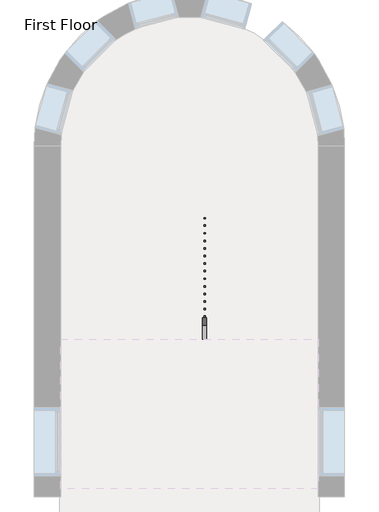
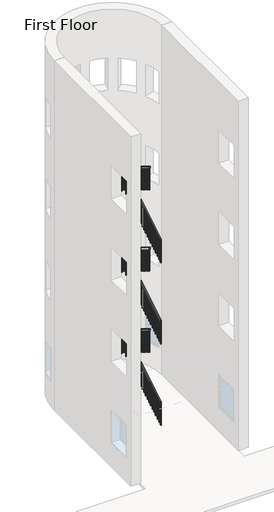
# One storey, part 4 of 5: 1 railing.
"""IFC4 building model written with IfcOpenShell, lengths in millimetres."""

import ifcopenshell
import ifcopenshell.guid

model = None  # the IFC model being written
_history = None  # IfcOwnerHistory: only IFC2X3 demands one
_inside = {}  # id of a spatial element -> (the spatial element, [elements in it])
_under = {}  # id of a project, library or spatial element -> (it, [spatial elements below it])
_declared = {}  # id of a project -> (the project, [libraries it declares])
_typed = {}  # id of a type object -> (the type object, [elements of that type])
_made_of = {}  # id of a material, layer set ... -> (it, [elements and type objects made of it])


def new_model(schema):
    """Start an empty IFC model of exactly this schema.

    Asked for "IFC4X3", IfcOpenShell would pick the latest addendum, in which some entities
    have other attributes; the version numbers below select the first issue.
    IFC2X3 requires an IfcOwnerHistory on every rooted entity: one is made here for all.
    """
    global model, _history
    if schema == "IFC4X3":
        model = ifcopenshell.file(schema_version=(4, 3, 0, 0))
    else:
        model = ifcopenshell.file(schema=schema)
    _inside.clear()
    _under.clear()
    _declared.clear()
    _typed.clear()
    _made_of.clear()
    _history = None
    if model.schema == "IFC2X3":
        org = make("IfcOrganization", Name="unknown")
        user = make(
            "IfcPersonAndOrganization",
            ThePerson=make("IfcPerson", FamilyName="unknown"),
            TheOrganization=org,
        )
        app = make(
            "IfcApplication",
            ApplicationDeveloper=org,
            Version="unknown",
            ApplicationFullName="unknown",
            ApplicationIdentifier="unknown",
        )
        _history = make(
            "IfcOwnerHistory",
            OwningUser=user,
            OwningApplication=app,
            ChangeAction="ADDED",
            CreationDate=0,
        )
    return model


def make(cls, **values):
    """One entity of the class cls with the attributes given. An attribute that is None is left unset."""
    return model.create_entity(
        cls, **{name: value for name, value in values.items() if value is not None}
    )


def rooted(cls, **values):
    """An entity with a GlobalId (a new one), such as an element, a storey or a relation."""
    return make(cls, GlobalId=ifcopenshell.guid.new(), OwnerHistory=_history, **values)


def si_unit(unit_type, name, prefix=None):
    """IfcSIUnit, for example si_unit("LENGTHUNIT", "METRE", prefix="MILLI")."""
    return make("IfcSIUnit", UnitType=unit_type, Prefix=prefix, Name=name)


def assignment(units):
    """IfcUnitAssignment: the units of a project."""
    return None if units is None else make("IfcUnitAssignment", Units=units)


def point(xyz):
    """IfcCartesianPoint."""
    return None if xyz is None else make("IfcCartesianPoint", Coordinates=xyz)


def direction(xyz):
    """IfcDirection."""
    return None if xyz is None else make("IfcDirection", DirectionRatios=xyz)


def frame(location, z_axis=None, x_axis=None):
    """IfcAxis2Placement3D, a coordinate frame: its origin and axes. An axis left out is left unset."""
    return make(
        "IfcAxis2Placement3D",
        Location=point(location),
        Axis=direction(z_axis),
        RefDirection=direction(x_axis),
    )


def origin():
    """The frame at (0, 0, 0) with its axes left unset."""
    return frame((0.0, 0.0, 0.0))


def place(relative_to, where):
    """IfcLocalPlacement: puts the frame where relative to a parent placement (None: the world)."""
    return make(
        "IfcLocalPlacement", PlacementRelTo=relative_to, RelativePlacement=where
    )


def context(
    kind, dimensions, precision=None, world=None, true_north=None, identifier=None
):
    """IfcGeometricRepresentationContext, for example the 3D "Model" context."""
    return make(
        "IfcGeometricRepresentationContext",
        ContextIdentifier=identifier,
        ContextType=kind,
        CoordinateSpaceDimension=dimensions,
        Precision=precision,
        WorldCoordinateSystem=world,
        TrueNorth=true_north,
    )


def project(units=None, contexts=None):
    """IfcProject with its units and contexts."""
    return rooted(
        "IfcProject",
        Name="project",
        RepresentationContexts=contexts,
        UnitsInContext=assignment(units),
    )


def spatial(cls, under=None, at=None, **own):
    """A site, building, storey or space (cls), placed at a placement, below another one or the project."""
    s = rooted(cls, ObjectPlacement=at, **own)
    if under is not None:
        _under.setdefault(under.id(), (under, []))[1].append(s)
    return s


def polyline(points):
    """IfcPolyline through the points."""
    return make("IfcPolyline", Points=[point(p) for p in points])


def outline(outer, holes=None, kind="AREA"):
    """IfcArbitraryClosedProfileDef: a profile drawn as a closed curve; with holes, ...WithVoids."""
    if holes is None:
        return make("IfcArbitraryClosedProfileDef", ProfileType=kind, OuterCurve=outer)
    return make(
        "IfcArbitraryProfileDefWithVoids",
        ProfileType=kind,
        OuterCurve=outer,
        InnerCurves=holes,
    )


def extrude(swept, where, along, depth):
    """IfcExtrudedAreaSolid: the profile swept, set in the frame where, extruded along a direction by depth."""
    return make(
        "IfcExtrudedAreaSolid",
        SweptArea=swept,
        Position=where,
        ExtrudedDirection=direction(along),
        Depth=depth,
    )


def shape(context_of_items, identifier, shape_type, items):
    """IfcShapeRepresentation: the items that make up one representation, for example the "Body"."""
    return make(
        "IfcShapeRepresentation",
        ContextOfItems=context_of_items,
        RepresentationIdentifier=identifier,
        RepresentationType=shape_type,
        Items=items,
    )


def made_of(thing, what):
    """Note that an element or type object is made of a material, layer set ...; save() writes the relation."""
    if what is not None:
        _made_of.setdefault(what.id(), (what, []))[1].append(thing)
    return thing


def element(
    cls,
    number,
    at=None,
    inside=None,
    cuts=None,
    type_object=None,
    material=None,
    context=None,
    identifier="Body",
    shape_type=None,
    held_by="IfcProductDefinitionShape",
    body=None,
    shapes=None,
    **own,
):
    """One element of the class cls, such as IfcWall. Its Tag is "e" and its number.

    at: its placement. inside: the storey or other place that contains it. cuts: it is an
    opening in that element (IfcRelVoidsElement). A single representation is given by context,
    identifier, shape_type and body (its items); several are given by shapes. held_by: the class
    of the entity that holds the representations. save() writes the other relations.
    """
    e = rooted(cls, Tag="e%d" % number, ObjectPlacement=at, **own)
    if body is not None:
        shapes = [shape(context, identifier, shape_type, body)]
    if shapes is not None:
        e.Representation = make(held_by, Representations=shapes)
    if inside is not None:
        _inside.setdefault(inside.id(), (inside, []))[1].append(e)
    if cuts is not None:
        rooted(
            "IfcRelVoidsElement", RelatingBuildingElement=cuts, RelatedOpeningElement=e
        )
    if type_object is not None:
        _typed.setdefault(type_object.id(), (type_object, []))[1].append(e)
    return made_of(e, material)


def aggregate(whole, parts):
    """IfcRelAggregates: a whole, such as a stair, and the parts it consists of."""
    return rooted("IfcRelAggregates", RelatingObject=whole, RelatedObjects=parts)


def save(model, path):
    """Write the relations noted so far, then the file.

    IfcRelAggregates (storeys below a building ...), IfcRelContainedInSpatialStructure (elements
    in a storey), IfcRelDefinesByType, IfcRelAssociatesMaterial and IfcRelDeclares: one each for
    every whole, place, type object, material and project.
    """
    for whole, parts in _under.values():
        aggregate(whole, parts)
    for where, things in _inside.values():
        rooted(
            "IfcRelContainedInSpatialStructure",
            RelatedElements=things,
            RelatingStructure=where,
        )
    for kind, things in _typed.values():
        rooted("IfcRelDefinesByType", RelatedObjects=things, RelatingType=kind)
    for what, things in _made_of.values():
        rooted("IfcRelAssociatesMaterial", RelatedObjects=things, RelatingMaterial=what)
    for by, libraries in _declared.values():
        rooted("IfcRelDeclares", RelatingContext=by, RelatedDefinitions=libraries)
    model.write(path)


model = new_model("IFC4")

# Units and contexts
model_context = context("Model", 3, world=origin())
ifc_project = project(units=[si_unit("LENGTHUNIT", "METRE", prefix="MILLI")], contexts=[model_context])

# Site, building, storey
site = spatial("IfcSite", under=ifc_project)
building = spatial("IfcBuilding", under=site)
storey = spatial("IfcBuildingStorey", under=building, Name="First Floor", Elevation=0.0)

# Railing
placement = place(None, origin())
element("IfcRailing", 1, ObjectType="Handrail - Rectangular", at=placement, inside=storey, context=model_context, shape_type="SweptSolid", body=[
    extrude(outline(polyline([(7001.9758812, 7120.3318731), (7001.9758812, 7179.7333333), (9186.3758812, 8503.6121212), (9186.3758812, 8444.210661), (7001.9758812, 7120.3318731)])), frame((-6067.8149687, 0.0, 0.0), z_axis=(1.0, 0.0, 0.0), x_axis=(0.0, 1.0, 0.0)), (0.0, 0.0, 1.0), 50.8),
    extrude(outline(polyline([(-6017.0149687, 9237.1758812), (-6017.0149687, 9186.3758812), (-6423.4149687, 9186.3758812), (-6423.4149687, 9237.1758812), (-6017.0149687, 9237.1758812)])), frame((0.0, 0.0, 8483.6), z_axis=(0.0, 0.0, 1.0), x_axis=(1.0, 0.0, 0.0)), (0.0, 0.0, 1.0), 50.8),
    extrude(outline(polyline([(9237.1758812, 8703.7333333), (9237.1758812, 8644.3318731), (7001.9758812, 9998.9985397), (7001.9758812, 10058.4), (9237.1758812, 8703.7333333)])), frame((-6474.2149687, 0.0, 0.0), z_axis=(1.0, 0.0, 0.0), x_axis=(0.0, 1.0, 0.0)), (0.0, 0.0, 1.0), 50.8),
    extrude(outline(polyline([(7087.7008812, 9947.0439943), (7087.7008812, 9134.8266332), (7068.6508812, 9146.3720877), (7068.6508812, 9958.5894488), (7087.7008812, 9947.0439943)])), frame((-6458.3399687, 0.0, 0.0), z_axis=(1.0, 0.0, 0.0), x_axis=(0.0, 1.0, 0.0)), (0.0, 0.0, 1.0), 19.05),
    extrude(outline(polyline([(7189.3008812, 9885.4682367), (7189.3008812, 9073.2508756), (7170.2508812, 9084.7963301), (7170.2508812, 9897.0136913), (7189.3008812, 9885.4682367)])), frame((-6458.3399687, 0.0, 0.0), z_axis=(1.0, 0.0, 0.0), x_axis=(0.0, 1.0, 0.0)), (0.0, 0.0, 1.0), 19.05),
    extrude(outline(polyline([(7290.9008812, 9823.8924791), (7290.9008812, 9011.675118), (7271.8508812, 9023.2205726), (7271.8508812, 9835.4379337), (7290.9008812, 9823.8924791)])), frame((-6458.3399687, 0.0, 0.0), z_axis=(1.0, 0.0, 0.0), x_axis=(0.0, 1.0, 0.0)), (0.0, 0.0, 1.0), 19.05),
    extrude(outline(polyline([(7392.5008812, 9762.3167216), (7392.5008812, 8950.0993604), (7373.4508812, 8961.644815), (7373.4508812, 9773.8621761), (7392.5008812, 9762.3167216)])), frame((-6458.3399687, 0.0, 0.0), z_axis=(1.0, 0.0, 0.0), x_axis=(0.0, 1.0, 0.0)), (0.0, 0.0, 1.0), 19.05),
    extrude(outline(polyline([(7494.1008812, 9700.740964), (7494.1008812, 8888.5236029), (7475.0508812, 8900.0690574), (7475.0508812, 9712.2864185), (7494.1008812, 9700.740964)])), frame((-6458.3399687, 0.0, 0.0), z_axis=(1.0, 0.0, 0.0), x_axis=(0.0, 1.0, 0.0)), (0.0, 0.0, 1.0), 19.05),
    extrude(outline(polyline([(7595.7008812, 9639.1652064), (7595.7008812, 8826.9478453), (7576.6508812, 8838.4932998), (7576.6508812, 9650.710661), (7595.7008812, 9639.1652064)])), frame((-6458.3399687, 0.0, 0.0), z_axis=(1.0, 0.0, 0.0), x_axis=(0.0, 1.0, 0.0)), (0.0, 0.0, 1.0), 19.05),
    extrude(outline(polyline([(7697.3008812, 9577.5894488), (7697.3008812, 8765.3720877), (7678.2508812, 8776.9175423), (7678.2508812, 9589.1349034), (7697.3008812, 9577.5894488)])), frame((-6458.3399687, 0.0, 0.0), z_axis=(1.0, 0.0, 0.0), x_axis=(0.0, 1.0, 0.0)), (0.0, 0.0, 1.0), 19.05),
    extrude(outline(polyline([(7798.9008812, 9516.0136913), (7798.9008812, 8703.7963301), (7779.8508812, 8715.3417847), (7779.8508812, 9527.5591458), (7798.9008812, 9516.0136913)])), frame((-6458.3399687, 0.0, 0.0), z_axis=(1.0, 0.0, 0.0), x_axis=(0.0, 1.0, 0.0)), (0.0, 0.0, 1.0), 19.05),
    extrude(outline(polyline([(7900.5008812, 9454.4379337), (7900.5008812, 8642.2205726), (7881.4508812, 8653.7660271), (7881.4508812, 9465.9833882), (7900.5008812, 9454.4379337)])), frame((-6458.3399687, 0.0, 0.0), z_axis=(1.0, 0.0, 0.0), x_axis=(0.0, 1.0, 0.0)), (0.0, 0.0, 1.0), 19.05),
    extrude(outline(polyline([(8002.1008812, 9392.8621761), (8002.1008812, 8580.644815), (7983.0508812, 8592.1902695), (7983.0508812, 9404.4076307), (8002.1008812, 9392.8621761)])), frame((-6458.3399687, 0.0, 0.0), z_axis=(1.0, 0.0, 0.0), x_axis=(0.0, 1.0, 0.0)), (0.0, 0.0, 1.0), 19.05),
    extrude(outline(polyline([(8103.7008812, 9331.2864185), (8103.7008812, 8519.0690574), (8084.6508812, 8530.614512), (8084.6508812, 9342.8318731), (8103.7008812, 9331.2864185)])), frame((-6458.3399687, 0.0, 0.0), z_axis=(1.0, 0.0, 0.0), x_axis=(0.0, 1.0, 0.0)), (0.0, 0.0, 1.0), 19.05),
    extrude(outline(polyline([(8205.3008812, 9269.710661), (8205.3008812, 8457.4932998), (8186.2508812, 8469.0387544), (8186.2508812, 9281.2561155), (8205.3008812, 9269.710661)])), frame((-6458.3399687, 0.0, 0.0), z_axis=(1.0, 0.0, 0.0), x_axis=(0.0, 1.0, 0.0)), (0.0, 0.0, 1.0), 19.05),
    extrude(outline(polyline([(8306.9008812, 9208.1349034), (8306.9008812, 8395.9175423), (8287.8508812, 8407.4629968), (8287.8508812, 9219.6803579), (8306.9008812, 9208.1349034)])), frame((-6458.3399687, 0.0, 0.0), z_axis=(1.0, 0.0, 0.0), x_axis=(0.0, 1.0, 0.0)), (0.0, 0.0, 1.0), 19.05),
    extrude(outline(polyline([(8408.5008812, 9146.5591458), (8408.5008812, 8334.3417847), (8389.4508812, 8345.8872392), (8389.4508812, 9158.1046004), (8408.5008812, 9146.5591458)])), frame((-6458.3399687, 0.0, 0.0), z_axis=(1.0, 0.0, 0.0), x_axis=(0.0, 1.0, 0.0)), (0.0, 0.0, 1.0), 19.05),
    extrude(outline(polyline([(8510.1008812, 9084.9833882), (8510.1008812, 8272.7660271), (8491.0508812, 8284.3114817), (8491.0508812, 9096.5288428), (8510.1008812, 9084.9833882)])), frame((-6458.3399687, 0.0, 0.0), z_axis=(1.0, 0.0, 0.0), x_axis=(0.0, 1.0, 0.0)), (0.0, 0.0, 1.0), 19.05),
    extrude(outline(polyline([(8611.7008812, 9023.4076307), (8611.7008812, 8211.1902695), (8592.6508812, 8222.7357241), (8592.6508812, 9034.9530852), (8611.7008812, 9023.4076307)])), frame((-6458.3399687, 0.0, 0.0), z_axis=(1.0, 0.0, 0.0), x_axis=(0.0, 1.0, 0.0)), (0.0, 0.0, 1.0), 19.05),
    extrude(outline(polyline([(8713.3008812, 8961.8318731), (8713.3008812, 8149.614512), (8694.2508812, 8161.1599665), (8694.2508812, 8973.3773276), (8713.3008812, 8961.8318731)])), frame((-6458.3399687, 0.0, 0.0), z_axis=(1.0, 0.0, 0.0), x_axis=(0.0, 1.0, 0.0)), (0.0, 0.0, 1.0), 19.05),
    extrude(outline(polyline([(8814.9008812, 8900.2561155), (8814.9008812, 8088.0387544), (8795.8508812, 8099.5842089), (8795.8508812, 8911.80157), (8814.9008812, 8900.2561155)])), frame((-6458.3399687, 0.0, 0.0), z_axis=(1.0, 0.0, 0.0), x_axis=(0.0, 1.0, 0.0)), (0.0, 0.0, 1.0), 19.05),
    extrude(outline(polyline([(8916.5008812, 8838.6803579), (8916.5008812, 8026.4629968), (8897.4508812, 8038.0084514), (8897.4508812, 8850.2258125), (8916.5008812, 8838.6803579)])), frame((-6458.3399687, 0.0, 0.0), z_axis=(1.0, 0.0, 0.0), x_axis=(0.0, 1.0, 0.0)), (0.0, 0.0, 1.0), 19.05),
    extrude(outline(polyline([(9018.1008812, 8777.1046004), (9018.1008812, 7964.8872392), (8999.0508812, 7976.4326938), (8999.0508812, 8788.6500549), (9018.1008812, 8777.1046004)])), frame((-6458.3399687, 0.0, 0.0), z_axis=(1.0, 0.0, 0.0), x_axis=(0.0, 1.0, 0.0)), (0.0, 0.0, 1.0), 19.05),
    extrude(outline(polyline([(9119.7008812, 8715.5288428), (9119.7008812, 7903.3114817), (9100.6508812, 7914.8569362), (9100.6508812, 8727.0742973), (9119.7008812, 8715.5288428)])), frame((-6458.3399687, 0.0, 0.0), z_axis=(1.0, 0.0, 0.0), x_axis=(0.0, 1.0, 0.0)), (0.0, 0.0, 1.0), 19.05),
    extrude(outline(polyline([(-6337.6899687, 9202.2508812), (-6356.7399687, 9202.2508812), (-6356.7399687, 9221.3008812), (-6337.6899687, 9221.3008812), (-6337.6899687, 9202.2508812)])), frame((0.0, 0.0, 7696.2), z_axis=(0.0, 0.0, 1.0), x_axis=(1.0, 0.0, 0.0)), (0.0, 0.0, 1.0), 787.4),
    extrude(outline(polyline([(-6236.0899687, 9202.2508812), (-6255.1399687, 9202.2508812), (-6255.1399687, 9221.3008812), (-6236.0899687, 9221.3008812), (-6236.0899687, 9202.2508812)])), frame((0.0, 0.0, 7696.2), z_axis=(0.0, 0.0, 1.0), x_axis=(1.0, 0.0, 0.0)), (0.0, 0.0, 1.0), 787.4),
    extrude(outline(polyline([(-6134.4899687, 9202.2508812), (-6153.5399687, 9202.2508812), (-6153.5399687, 9221.3008812), (-6134.4899687, 9221.3008812), (-6134.4899687, 9202.2508812)])), frame((0.0, 0.0, 7696.2), z_axis=(0.0, 0.0, 1.0), x_axis=(1.0, 0.0, 0.0)), (0.0, 0.0, 1.0), 787.4),
    extrude(outline(polyline([(9145.1008812, 8419.1955094), (9145.1008812, 7606.9781483), (9126.0508812, 7595.4326938), (9126.0508812, 8407.6500549), (9145.1008812, 8419.1955094)])), frame((-6051.9399687, 0.0, 0.0), z_axis=(1.0, 0.0, 0.0), x_axis=(0.0, 1.0, 0.0)), (0.0, 0.0, 1.0), 19.05),
    extrude(outline(polyline([(9043.5008812, 8357.6197519), (9043.5008812, 7545.4023907), (9024.4508812, 7533.8569362), (9024.4508812, 8346.0742973), (9043.5008812, 8357.6197519)])), frame((-6051.9399687, 0.0, 0.0), z_axis=(1.0, 0.0, 0.0), x_axis=(0.0, 1.0, 0.0)), (0.0, 0.0, 1.0), 19.05),
    extrude(outline(polyline([(8941.9008812, 8296.0439943), (8941.9008812, 7483.8266332), (8922.8508812, 7472.2811786), (8922.8508812, 8284.4985397), (8941.9008812, 8296.0439943)])), frame((-6051.9399687, 0.0, 0.0), z_axis=(1.0, 0.0, 0.0), x_axis=(0.0, 1.0, 0.0)), (0.0, 0.0, 1.0), 19.05),
    extrude(outline(polyline([(8840.3008812, 8234.4682367), (8840.3008812, 7422.2508756), (8821.2508812, 7410.7054211), (8821.2508812, 8222.9227822), (8840.3008812, 8234.4682367)])), frame((-6051.9399687, 0.0, 0.0), z_axis=(1.0, 0.0, 0.0), x_axis=(0.0, 1.0, 0.0)), (0.0, 0.0, 1.0), 19.05),
    extrude(outline(polyline([(8738.7008812, 8172.8924791), (8738.7008812, 7360.675118), (8719.6508812, 7349.1296635), (8719.6508812, 8161.3470246), (8738.7008812, 8172.8924791)])), frame((-6051.9399687, 0.0, 0.0), z_axis=(1.0, 0.0, 0.0), x_axis=(0.0, 1.0, 0.0)), (0.0, 0.0, 1.0), 19.05),
    extrude(outline(polyline([(8637.1008812, 8111.3167216), (8637.1008812, 7299.0993604), (8618.0508812, 7287.5539059), (8618.0508812, 8099.771267), (8637.1008812, 8111.3167216)])), frame((-6051.9399687, 0.0, 0.0), z_axis=(1.0, 0.0, 0.0), x_axis=(0.0, 1.0, 0.0)), (0.0, 0.0, 1.0), 19.05),
    extrude(outline(polyline([(8535.5008812, 8049.740964), (8535.5008812, 7237.5236029), (8516.4508812, 7225.9781483), (8516.4508812, 8038.1955094), (8535.5008812, 8049.740964)])), frame((-6051.9399687, 0.0, 0.0), z_axis=(1.0, 0.0, 0.0), x_axis=(0.0, 1.0, 0.0)), (0.0, 0.0, 1.0), 19.05),
    extrude(outline(polyline([(8433.9008812, 7988.1652064), (8433.9008812, 7175.9478453), (8414.8508812, 7164.4023907), (8414.8508812, 7976.6197519), (8433.9008812, 7988.1652064)])), frame((-6051.9399687, 0.0, 0.0), z_axis=(1.0, 0.0, 0.0), x_axis=(0.0, 1.0, 0.0)), (0.0, 0.0, 1.0), 19.05),
    extrude(outline(polyline([(8332.3008812, 7926.5894488), (8332.3008812, 7114.3720877), (8313.2508812, 7102.8266332), (8313.2508812, 7915.0439943), (8332.3008812, 7926.5894488)])), frame((-6051.9399687, 0.0, 0.0), z_axis=(1.0, 0.0, 0.0), x_axis=(0.0, 1.0, 0.0)), (0.0, 0.0, 1.0), 19.05),
    extrude(outline(polyline([(8230.7008812, 7865.0136913), (8230.7008812, 7052.7963301), (8211.6508812, 7041.2508756), (8211.6508812, 7853.4682367), (8230.7008812, 7865.0136913)])), frame((-6051.9399687, 0.0, 0.0), z_axis=(1.0, 0.0, 0.0), x_axis=(0.0, 1.0, 0.0)), (0.0, 0.0, 1.0), 19.05),
    extrude(outline(polyline([(8129.1008812, 7803.4379337), (8129.1008812, 6991.2205726), (8110.0508812, 6979.675118), (8110.0508812, 7791.8924791), (8129.1008812, 7803.4379337)])), frame((-6051.9399687, 0.0, 0.0), z_axis=(1.0, 0.0, 0.0), x_axis=(0.0, 1.0, 0.0)), (0.0, 0.0, 1.0), 19.05),
    extrude(outline(polyline([(8027.5008812, 7741.8621761), (8027.5008812, 6929.644815), (8008.4508812, 6918.0993604), (8008.4508812, 7730.3167216), (8027.5008812, 7741.8621761)])), frame((-6051.9399687, 0.0, 0.0), z_axis=(1.0, 0.0, 0.0), x_axis=(0.0, 1.0, 0.0)), (0.0, 0.0, 1.0), 19.05),
    extrude(outline(polyline([(7925.9008812, 7680.2864185), (7925.9008812, 6868.0690574), (7906.8508812, 6856.5236029), (7906.8508812, 7668.740964), (7925.9008812, 7680.2864185)])), frame((-6051.9399687, 0.0, 0.0), z_axis=(1.0, 0.0, 0.0), x_axis=(0.0, 1.0, 0.0)), (0.0, 0.0, 1.0), 19.05),
    extrude(outline(polyline([(7824.3008812, 7618.710661), (7824.3008812, 6806.4932998), (7805.2508812, 6794.9478453), (7805.2508812, 7607.1652064), (7824.3008812, 7618.710661)])), frame((-6051.9399687, 0.0, 0.0), z_axis=(1.0, 0.0, 0.0), x_axis=(0.0, 1.0, 0.0)), (0.0, 0.0, 1.0), 19.05),
    extrude(outline(polyline([(7722.7008812, 7557.1349034), (7722.7008812, 6744.9175423), (7703.6508812, 6733.3720877), (7703.6508812, 7545.5894488), (7722.7008812, 7557.1349034)])), frame((-6051.9399687, 0.0, 0.0), z_axis=(1.0, 0.0, 0.0), x_axis=(0.0, 1.0, 0.0)), (0.0, 0.0, 1.0), 19.05),
    extrude(outline(polyline([(7621.1008812, 7495.5591458), (7621.1008812, 6683.3417847), (7602.0508812, 6671.7963301), (7602.0508812, 7484.0136913), (7621.1008812, 7495.5591458)])), frame((-6051.9399687, 0.0, 0.0), z_axis=(1.0, 0.0, 0.0), x_axis=(0.0, 1.0, 0.0)), (0.0, 0.0, 1.0), 19.05),
    extrude(outline(polyline([(7519.5008812, 7433.9833882), (7519.5008812, 6621.7660271), (7500.4508812, 6610.2205726), (7500.4508812, 7422.4379337), (7519.5008812, 7433.9833882)])), frame((-6051.9399687, 0.0, 0.0), z_axis=(1.0, 0.0, 0.0), x_axis=(0.0, 1.0, 0.0)), (0.0, 0.0, 1.0), 19.05),
    extrude(outline(polyline([(7417.9008812, 7372.4076307), (7417.9008812, 6560.1902695), (7398.8508812, 6548.644815), (7398.8508812, 7360.8621761), (7417.9008812, 7372.4076307)])), frame((-6051.9399687, 0.0, 0.0), z_axis=(1.0, 0.0, 0.0), x_axis=(0.0, 1.0, 0.0)), (0.0, 0.0, 1.0), 19.05),
    extrude(outline(polyline([(7316.3008812, 7310.8318731), (7316.3008812, 6498.614512), (7297.2508812, 6487.0690574), (7297.2508812, 7299.2864185), (7316.3008812, 7310.8318731)])), frame((-6051.9399687, 0.0, 0.0), z_axis=(1.0, 0.0, 0.0), x_axis=(0.0, 1.0, 0.0)), (0.0, 0.0, 1.0), 19.05),
    extrude(outline(polyline([(7214.7008812, 7249.2561155), (7214.7008812, 6437.0387544), (7195.6508812, 6425.4932998), (7195.6508812, 7237.710661), (7214.7008812, 7249.2561155)])), frame((-6051.9399687, 0.0, 0.0), z_axis=(1.0, 0.0, 0.0), x_axis=(0.0, 1.0, 0.0)), (0.0, 0.0, 1.0), 19.05),
    extrude(outline(polyline([(7113.1008812, 7187.6803579), (7113.1008812, 6375.4629968), (7094.0508812, 6363.9175423), (7094.0508812, 7176.1349034), (7113.1008812, 7187.6803579)])), frame((-6051.9399687, 0.0, 0.0), z_axis=(1.0, 0.0, 0.0), x_axis=(0.0, 1.0, 0.0)), (0.0, 0.0, 1.0), 19.05),
    extrude(outline(polyline([(9221.3008812, 8653.9530852), (9221.3008812, 7841.7357241), (9202.2508812, 7853.2811786), (9202.2508812, 8665.4985397), (9221.3008812, 8653.9530852)])), frame((-6458.3399687, 0.0, 0.0), z_axis=(1.0, 0.0, 0.0), x_axis=(0.0, 1.0, 0.0)), (0.0, 0.0, 1.0), 19.05),
    extrude(outline(polyline([(-6032.8899687, 9202.2508812), (-6051.9399687, 9202.2508812), (-6051.9399687, 9221.3008812), (-6032.8899687, 9221.3008812), (-6032.8899687, 9202.2508812)])), frame((0.0, 0.0, 7696.2), z_axis=(0.0, 0.0, 1.0), x_axis=(1.0, 0.0, 0.0)), (0.0, 0.0, 1.0), 787.4),
    extrude(outline(polyline([(7021.0258812, 9987.4530852), (7021.0258812, 9175.2357241), (7001.9758812, 9186.7811786), (7001.9758812, 9998.9985397), (7021.0258812, 9987.4530852)])), frame((-6458.3399687, 0.0, 0.0), z_axis=(1.0, 0.0, 0.0), x_axis=(0.0, 1.0, 0.0)), (0.0, 0.0, 1.0), 19.05),
    extrude(outline(polyline([(7021.0258812, 7131.8773276), (7021.0258812, 6319.6599665), (7001.9758812, 6308.114512), (7001.9758812, 7120.3318731), (7021.0258812, 7131.8773276)])), frame((-6051.9399687, 0.0, 0.0), z_axis=(1.0, 0.0, 0.0), x_axis=(0.0, 1.0, 0.0)), (0.0, 0.0, 1.0), 19.05),
    extrude(outline(polyline([(7001.9758812, 4072.3318731), (7001.9758812, 4131.7333333), (9186.3758812, 5455.6121212), (9186.3758812, 5396.210661), (7001.9758812, 4072.3318731)])), frame((-6067.8149687, 0.0, 0.0), z_axis=(1.0, 0.0, 0.0), x_axis=(0.0, 1.0, 0.0)), (0.0, 0.0, 1.0), 50.8),
    extrude(outline(polyline([(-6017.0149687, 9237.1758812), (-6017.0149687, 9186.3758812), (-6423.4149687, 9186.3758812), (-6423.4149687, 9237.1758812), (-6017.0149687, 9237.1758812)])), frame((0.0, 0.0, 5435.6), z_axis=(0.0, 0.0, 1.0), x_axis=(1.0, 0.0, 0.0)), (0.0, 0.0, 1.0), 50.8),
    extrude(outline(polyline([(9237.1758812, 5655.7333333), (9237.1758812, 5596.3318731), (7001.9758812, 6950.9985397), (7001.9758812, 7010.4), (9237.1758812, 5655.7333333)])), frame((-6474.2149687, 0.0, 0.0), z_axis=(1.0, 0.0, 0.0), x_axis=(0.0, 1.0, 0.0)), (0.0, 0.0, 1.0), 50.8),
    extrude(outline(polyline([(7087.7008812, 6899.0439943), (7087.7008812, 6086.8266332), (7068.6508812, 6098.3720877), (7068.6508812, 6910.5894488), (7087.7008812, 6899.0439943)])), frame((-6458.3399687, 0.0, 0.0), z_axis=(1.0, 0.0, 0.0), x_axis=(0.0, 1.0, 0.0)), (0.0, 0.0, 1.0), 19.05),
    extrude(outline(polyline([(7189.3008812, 6837.4682367), (7189.3008812, 6025.2508756), (7170.2508812, 6036.7963301), (7170.2508812, 6849.0136913), (7189.3008812, 6837.4682367)])), frame((-6458.3399687, 0.0, 0.0), z_axis=(1.0, 0.0, 0.0), x_axis=(0.0, 1.0, 0.0)), (0.0, 0.0, 1.0), 19.05),
    extrude(outline(polyline([(7290.9008812, 6775.8924791), (7290.9008812, 5963.675118), (7271.8508812, 5975.2205726), (7271.8508812, 6787.4379337), (7290.9008812, 6775.8924791)])), frame((-6458.3399687, 0.0, 0.0), z_axis=(1.0, 0.0, 0.0), x_axis=(0.0, 1.0, 0.0)), (0.0, 0.0, 1.0), 19.05),
    extrude(outline(polyline([(7392.5008812, 6714.3167216), (7392.5008812, 5902.0993604), (7373.4508812, 5913.644815), (7373.4508812, 6725.8621761), (7392.5008812, 6714.3167216)])), frame((-6458.3399687, 0.0, 0.0), z_axis=(1.0, 0.0, 0.0), x_axis=(0.0, 1.0, 0.0)), (0.0, 0.0, 1.0), 19.05),
    extrude(outline(polyline([(7494.1008812, 6652.740964), (7494.1008812, 5840.5236029), (7475.0508812, 5852.0690574), (7475.0508812, 6664.2864185), (7494.1008812, 6652.740964)])), frame((-6458.3399687, 0.0, 0.0), z_axis=(1.0, 0.0, 0.0), x_axis=(0.0, 1.0, 0.0)), (0.0, 0.0, 1.0), 19.05),
    extrude(outline(polyline([(7595.7008812, 6591.1652064), (7595.7008812, 5778.9478453), (7576.6508812, 5790.4932998), (7576.6508812, 6602.710661), (7595.7008812, 6591.1652064)])), frame((-6458.3399687, 0.0, 0.0), z_axis=(1.0, 0.0, 0.0), x_axis=(0.0, 1.0, 0.0)), (0.0, 0.0, 1.0), 19.05),
    extrude(outline(polyline([(7697.3008812, 6529.5894488), (7697.3008812, 5717.3720877), (7678.2508812, 5728.9175423), (7678.2508812, 6541.1349034), (7697.3008812, 6529.5894488)])), frame((-6458.3399687, 0.0, 0.0), z_axis=(1.0, 0.0, 0.0), x_axis=(0.0, 1.0, 0.0)), (0.0, 0.0, 1.0), 19.05),
    extrude(outline(polyline([(7798.9008812, 6468.0136913), (7798.9008812, 5655.7963301), (7779.8508812, 5667.3417847), (7779.8508812, 6479.5591458), (7798.9008812, 6468.0136913)])), frame((-6458.3399687, 0.0, 0.0), z_axis=(1.0, 0.0, 0.0), x_axis=(0.0, 1.0, 0.0)), (0.0, 0.0, 1.0), 19.05),
    extrude(outline(polyline([(7900.5008812, 6406.4379337), (7900.5008812, 5594.2205726), (7881.4508812, 5605.7660271), (7881.4508812, 6417.9833882), (7900.5008812, 6406.4379337)])), frame((-6458.3399687, 0.0, 0.0), z_axis=(1.0, 0.0, 0.0), x_axis=(0.0, 1.0, 0.0)), (0.0, 0.0, 1.0), 19.05),
    extrude(outline(polyline([(8002.1008812, 6344.8621761), (8002.1008812, 5532.644815), (7983.0508812, 5544.1902695), (7983.0508812, 6356.4076307), (8002.1008812, 6344.8621761)])), frame((-6458.3399687, 0.0, 0.0), z_axis=(1.0, 0.0, 0.0), x_axis=(0.0, 1.0, 0.0)), (0.0, 0.0, 1.0), 19.05),
    extrude(outline(polyline([(8103.7008812, 6283.2864185), (8103.7008812, 5471.0690574), (8084.6508812, 5482.614512), (8084.6508812, 6294.8318731), (8103.7008812, 6283.2864185)])), frame((-6458.3399687, 0.0, 0.0), z_axis=(1.0, 0.0, 0.0), x_axis=(0.0, 1.0, 0.0)), (0.0, 0.0, 1.0), 19.05),
    extrude(outline(polyline([(8205.3008812, 6221.710661), (8205.3008812, 5409.4932998), (8186.2508812, 5421.0387544), (8186.2508812, 6233.2561155), (8205.3008812, 6221.710661)])), frame((-6458.3399687, 0.0, 0.0), z_axis=(1.0, 0.0, 0.0), x_axis=(0.0, 1.0, 0.0)), (0.0, 0.0, 1.0), 19.05),
    extrude(outline(polyline([(8306.9008812, 6160.1349034), (8306.9008812, 5347.9175423), (8287.8508812, 5359.4629968), (8287.8508812, 6171.6803579), (8306.9008812, 6160.1349034)])), frame((-6458.3399687, 0.0, 0.0), z_axis=(1.0, 0.0, 0.0), x_axis=(0.0, 1.0, 0.0)), (0.0, 0.0, 1.0), 19.05),
    extrude(outline(polyline([(8408.5008812, 6098.5591458), (8408.5008812, 5286.3417847), (8389.4508812, 5297.8872392), (8389.4508812, 6110.1046004), (8408.5008812, 6098.5591458)])), frame((-6458.3399687, 0.0, 0.0), z_axis=(1.0, 0.0, 0.0), x_axis=(0.0, 1.0, 0.0)), (0.0, 0.0, 1.0), 19.05),
    extrude(outline(polyline([(8510.1008812, 6036.9833882), (8510.1008812, 5224.7660271), (8491.0508812, 5236.3114817), (8491.0508812, 6048.5288428), (8510.1008812, 6036.9833882)])), frame((-6458.3399687, 0.0, 0.0), z_axis=(1.0, 0.0, 0.0), x_axis=(0.0, 1.0, 0.0)), (0.0, 0.0, 1.0), 19.05),
    extrude(outline(polyline([(8611.7008812, 5975.4076307), (8611.7008812, 5163.1902695), (8592.6508812, 5174.7357241), (8592.6508812, 5986.9530852), (8611.7008812, 5975.4076307)])), frame((-6458.3399687, 0.0, 0.0), z_axis=(1.0, 0.0, 0.0), x_axis=(0.0, 1.0, 0.0)), (0.0, 0.0, 1.0), 19.05),
    extrude(outline(polyline([(8713.3008812, 5913.8318731), (8713.3008812, 5101.614512), (8694.2508812, 5113.1599665), (8694.2508812, 5925.3773276), (8713.3008812, 5913.8318731)])), frame((-6458.3399687, 0.0, 0.0), z_axis=(1.0, 0.0, 0.0), x_axis=(0.0, 1.0, 0.0)), (0.0, 0.0, 1.0), 19.05),
    extrude(outline(polyline([(8814.9008812, 5852.2561155), (8814.9008812, 5040.0387544), (8795.8508812, 5051.5842089), (8795.8508812, 5863.80157), (8814.9008812, 5852.2561155)])), frame((-6458.3399687, 0.0, 0.0), z_axis=(1.0, 0.0, 0.0), x_axis=(0.0, 1.0, 0.0)), (0.0, 0.0, 1.0), 19.05),
    extrude(outline(polyline([(8916.5008812, 5790.6803579), (8916.5008812, 4978.4629968), (8897.4508812, 4990.0084514), (8897.4508812, 5802.2258125), (8916.5008812, 5790.6803579)])), frame((-6458.3399687, 0.0, 0.0), z_axis=(1.0, 0.0, 0.0), x_axis=(0.0, 1.0, 0.0)), (0.0, 0.0, 1.0), 19.05),
    extrude(outline(polyline([(9018.1008812, 5729.1046004), (9018.1008812, 4916.8872392), (8999.0508812, 4928.4326938), (8999.0508812, 5740.6500549), (9018.1008812, 5729.1046004)])), frame((-6458.3399687, 0.0, 0.0), z_axis=(1.0, 0.0, 0.0), x_axis=(0.0, 1.0, 0.0)), (0.0, 0.0, 1.0), 19.05),
    extrude(outline(polyline([(9119.7008812, 5667.5288428), (9119.7008812, 4855.3114817), (9100.6508812, 4866.8569362), (9100.6508812, 5679.0742973), (9119.7008812, 5667.5288428)])), frame((-6458.3399687, 0.0, 0.0), z_axis=(1.0, 0.0, 0.0), x_axis=(0.0, 1.0, 0.0)), (0.0, 0.0, 1.0), 19.05),
    extrude(outline(polyline([(-6337.6899687, 9202.2508812), (-6356.7399687, 9202.2508812), (-6356.7399687, 9221.3008812), (-6337.6899687, 9221.3008812), (-6337.6899687, 9202.2508812)])), frame((0.0, 0.0, 4648.2), z_axis=(0.0, 0.0, 1.0), x_axis=(1.0, 0.0, 0.0)), (0.0, 0.0, 1.0), 787.4),
    extrude(outline(polyline([(-6236.0899687, 9202.2508812), (-6255.1399687, 9202.2508812), (-6255.1399687, 9221.3008812), (-6236.0899687, 9221.3008812), (-6236.0899687, 9202.2508812)])), frame((0.0, 0.0, 4648.2), z_axis=(0.0, 0.0, 1.0), x_axis=(1.0, 0.0, 0.0)), (0.0, 0.0, 1.0), 787.4),
    extrude(outline(polyline([(-6134.4899687, 9202.2508812), (-6153.5399687, 9202.2508812), (-6153.5399687, 9221.3008812), (-6134.4899687, 9221.3008812), (-6134.4899687, 9202.2508812)])), frame((0.0, 0.0, 4648.2), z_axis=(0.0, 0.0, 1.0), x_axis=(1.0, 0.0, 0.0)), (0.0, 0.0, 1.0), 787.4),
    extrude(outline(polyline([(9145.1008812, 5371.1955094), (9145.1008812, 4558.9781483), (9126.0508812, 4547.4326938), (9126.0508812, 5359.6500549), (9145.1008812, 5371.1955094)])), frame((-6051.9399687, 0.0, 0.0), z_axis=(1.0, 0.0, 0.0), x_axis=(0.0, 1.0, 0.0)), (0.0, 0.0, 1.0), 19.05),
    extrude(outline(polyline([(9043.5008812, 5309.6197519), (9043.5008812, 4497.4023907), (9024.4508812, 4485.8569362), (9024.4508812, 5298.0742973), (9043.5008812, 5309.6197519)])), frame((-6051.9399687, 0.0, 0.0), z_axis=(1.0, 0.0, 0.0), x_axis=(0.0, 1.0, 0.0)), (0.0, 0.0, 1.0), 19.05),
    extrude(outline(polyline([(8941.9008812, 5248.0439943), (8941.9008812, 4435.8266332), (8922.8508812, 4424.2811786), (8922.8508812, 5236.4985397), (8941.9008812, 5248.0439943)])), frame((-6051.9399687, 0.0, 0.0), z_axis=(1.0, 0.0, 0.0), x_axis=(0.0, 1.0, 0.0)), (0.0, 0.0, 1.0), 19.05),
    extrude(outline(polyline([(8840.3008812, 5186.4682367), (8840.3008812, 4374.2508756), (8821.2508812, 4362.7054211), (8821.2508812, 5174.9227822), (8840.3008812, 5186.4682367)])), frame((-6051.9399687, 0.0, 0.0), z_axis=(1.0, 0.0, 0.0), x_axis=(0.0, 1.0, 0.0)), (0.0, 0.0, 1.0), 19.05),
    extrude(outline(polyline([(8738.7008812, 5124.8924791), (8738.7008812, 4312.675118), (8719.6508812, 4301.1296635), (8719.6508812, 5113.3470246), (8738.7008812, 5124.8924791)])), frame((-6051.9399687, 0.0, 0.0), z_axis=(1.0, 0.0, 0.0), x_axis=(0.0, 1.0, 0.0)), (0.0, 0.0, 1.0), 19.05),
    extrude(outline(polyline([(8637.1008812, 5063.3167216), (8637.1008812, 4251.0993604), (8618.0508812, 4239.5539059), (8618.0508812, 5051.771267), (8637.1008812, 5063.3167216)])), frame((-6051.9399687, 0.0, 0.0), z_axis=(1.0, 0.0, 0.0), x_axis=(0.0, 1.0, 0.0)), (0.0, 0.0, 1.0), 19.05),
    extrude(outline(polyline([(8535.5008812, 5001.740964), (8535.5008812, 4189.5236029), (8516.4508812, 4177.9781483), (8516.4508812, 4990.1955094), (8535.5008812, 5001.740964)])), frame((-6051.9399687, 0.0, 0.0), z_axis=(1.0, 0.0, 0.0), x_axis=(0.0, 1.0, 0.0)), (0.0, 0.0, 1.0), 19.05),
    extrude(outline(polyline([(8433.9008812, 4940.1652064), (8433.9008812, 4127.9478453), (8414.8508812, 4116.4023907), (8414.8508812, 4928.6197519), (8433.9008812, 4940.1652064)])), frame((-6051.9399687, 0.0, 0.0), z_axis=(1.0, 0.0, 0.0), x_axis=(0.0, 1.0, 0.0)), (0.0, 0.0, 1.0), 19.05),
    extrude(outline(polyline([(8332.3008812, 4878.5894488), (8332.3008812, 4066.3720877), (8313.2508812, 4054.8266332), (8313.2508812, 4867.0439943), (8332.3008812, 4878.5894488)])), frame((-6051.9399687, 0.0, 0.0), z_axis=(1.0, 0.0, 0.0), x_axis=(0.0, 1.0, 0.0)), (0.0, 0.0, 1.0), 19.05),
    extrude(outline(polyline([(8230.7008812, 4817.0136913), (8230.7008812, 4004.7963301), (8211.6508812, 3993.2508756), (8211.6508812, 4805.4682367), (8230.7008812, 4817.0136913)])), frame((-6051.9399687, 0.0, 0.0), z_axis=(1.0, 0.0, 0.0), x_axis=(0.0, 1.0, 0.0)), (0.0, 0.0, 1.0), 19.05),
    extrude(outline(polyline([(8129.1008812, 4755.4379337), (8129.1008812, 3943.2205726), (8110.0508812, 3931.675118), (8110.0508812, 4743.8924791), (8129.1008812, 4755.4379337)])), frame((-6051.9399687, 0.0, 0.0), z_axis=(1.0, 0.0, 0.0), x_axis=(0.0, 1.0, 0.0)), (0.0, 0.0, 1.0), 19.05),
    extrude(outline(polyline([(8027.5008812, 4693.8621761), (8027.5008812, 3881.644815), (8008.4508812, 3870.0993604), (8008.4508812, 4682.3167216), (8027.5008812, 4693.8621761)])), frame((-6051.9399687, 0.0, 0.0), z_axis=(1.0, 0.0, 0.0), x_axis=(0.0, 1.0, 0.0)), (0.0, 0.0, 1.0), 19.05),
    extrude(outline(polyline([(7925.9008812, 4632.2864185), (7925.9008812, 3820.0690574), (7906.8508812, 3808.5236029), (7906.8508812, 4620.740964), (7925.9008812, 4632.2864185)])), frame((-6051.9399687, 0.0, 0.0), z_axis=(1.0, 0.0, 0.0), x_axis=(0.0, 1.0, 0.0)), (0.0, 0.0, 1.0), 19.05),
    extrude(outline(polyline([(7824.3008812, 4570.710661), (7824.3008812, 3758.4932998), (7805.2508812, 3746.9478453), (7805.2508812, 4559.1652064), (7824.3008812, 4570.710661)])), frame((-6051.9399687, 0.0, 0.0), z_axis=(1.0, 0.0, 0.0), x_axis=(0.0, 1.0, 0.0)), (0.0, 0.0, 1.0), 19.05),
    extrude(outline(polyline([(7722.7008812, 4509.1349034), (7722.7008812, 3696.9175423), (7703.6508812, 3685.3720877), (7703.6508812, 4497.5894488), (7722.7008812, 4509.1349034)])), frame((-6051.9399687, 0.0, 0.0), z_axis=(1.0, 0.0, 0.0), x_axis=(0.0, 1.0, 0.0)), (0.0, 0.0, 1.0), 19.05),
    extrude(outline(polyline([(7621.1008812, 4447.5591458), (7621.1008812, 3635.3417847), (7602.0508812, 3623.7963301), (7602.0508812, 4436.0136913), (7621.1008812, 4447.5591458)])), frame((-6051.9399687, 0.0, 0.0), z_axis=(1.0, 0.0, 0.0), x_axis=(0.0, 1.0, 0.0)), (0.0, 0.0, 1.0), 19.05),
    extrude(outline(polyline([(7519.5008812, 4385.9833882), (7519.5008812, 3573.7660271), (7500.4508812, 3562.2205726), (7500.4508812, 4374.4379337), (7519.5008812, 4385.9833882)])), frame((-6051.9399687, 0.0, 0.0), z_axis=(1.0, 0.0, 0.0), x_axis=(0.0, 1.0, 0.0)), (0.0, 0.0, 1.0), 19.05),
    extrude(outline(polyline([(7417.9008812, 4324.4076307), (7417.9008812, 3512.1902695), (7398.8508812, 3500.644815), (7398.8508812, 4312.8621761), (7417.9008812, 4324.4076307)])), frame((-6051.9399687, 0.0, 0.0), z_axis=(1.0, 0.0, 0.0), x_axis=(0.0, 1.0, 0.0)), (0.0, 0.0, 1.0), 19.05),
    extrude(outline(polyline([(7316.3008812, 4262.8318731), (7316.3008812, 3450.614512), (7297.2508812, 3439.0690574), (7297.2508812, 4251.2864185), (7316.3008812, 4262.8318731)])), frame((-6051.9399687, 0.0, 0.0), z_axis=(1.0, 0.0, 0.0), x_axis=(0.0, 1.0, 0.0)), (0.0, 0.0, 1.0), 19.05),
    extrude(outline(polyline([(7214.7008812, 4201.2561155), (7214.7008812, 3389.0387544), (7195.6508812, 3377.4932998), (7195.6508812, 4189.710661), (7214.7008812, 4201.2561155)])), frame((-6051.9399687, 0.0, 0.0), z_axis=(1.0, 0.0, 0.0), x_axis=(0.0, 1.0, 0.0)), (0.0, 0.0, 1.0), 19.05),
    extrude(outline(polyline([(7113.1008812, 4139.6803579), (7113.1008812, 3327.4629968), (7094.0508812, 3315.9175423), (7094.0508812, 4128.1349034), (7113.1008812, 4139.6803579)])), frame((-6051.9399687, 0.0, 0.0), z_axis=(1.0, 0.0, 0.0), x_axis=(0.0, 1.0, 0.0)), (0.0, 0.0, 1.0), 19.05),
    extrude(outline(polyline([(9221.3008812, 5605.9530852), (9221.3008812, 4793.7357241), (9202.2508812, 4805.2811786), (9202.2508812, 5617.4985397), (9221.3008812, 5605.9530852)])), frame((-6458.3399687, 0.0, 0.0), z_axis=(1.0, 0.0, 0.0), x_axis=(0.0, 1.0, 0.0)), (0.0, 0.0, 1.0), 19.05),
    extrude(outline(polyline([(-6032.8899687, 9202.2508812), (-6051.9399687, 9202.2508812), (-6051.9399687, 9221.3008812), (-6032.8899687, 9221.3008812), (-6032.8899687, 9202.2508812)])), frame((0.0, 0.0, 4648.2), z_axis=(0.0, 0.0, 1.0), x_axis=(1.0, 0.0, 0.0)), (0.0, 0.0, 1.0), 787.4),
    extrude(outline(polyline([(7021.0258812, 6939.4530852), (7021.0258812, 6127.2357241), (7001.9758812, 6138.7811786), (7001.9758812, 6950.9985397), (7021.0258812, 6939.4530852)])), frame((-6458.3399687, 0.0, 0.0), z_axis=(1.0, 0.0, 0.0), x_axis=(0.0, 1.0, 0.0)), (0.0, 0.0, 1.0), 19.05),
    extrude(outline(polyline([(7021.0258812, 4083.8773276), (7021.0258812, 3271.6599665), (7001.9758812, 3260.114512), (7001.9758812, 4072.3318731), (7021.0258812, 4083.8773276)])), frame((-6051.9399687, 0.0, 0.0), z_axis=(1.0, 0.0, 0.0), x_axis=(0.0, 1.0, 0.0)), (0.0, 0.0, 1.0), 19.05),
    extrude(outline(polyline([(7001.9758812, 1024.3318731), (7001.9758812, 1083.7333333), (9186.3758812, 2407.6121212), (9186.3758812, 2348.210661), (7001.9758812, 1024.3318731)])), frame((-6067.8149687, 0.0, 0.0), z_axis=(1.0, 0.0, 0.0), x_axis=(0.0, 1.0, 0.0)), (0.0, 0.0, 1.0), 50.8),
    extrude(outline(polyline([(-6017.0149687, 9237.1758812), (-6017.0149687, 9186.3758812), (-6423.4149687, 9186.3758812), (-6423.4149687, 9237.1758812), (-6017.0149687, 9237.1758812)])), frame((0.0, 0.0, 2387.6), z_axis=(0.0, 0.0, 1.0), x_axis=(1.0, 0.0, 0.0)), (0.0, 0.0, 1.0), 50.8),
    extrude(outline(polyline([(9237.1758812, 2607.7333333), (9237.1758812, 2548.3318731), (7001.9758812, 3902.9985397), (7001.9758812, 3962.4), (9237.1758812, 2607.7333333)])), frame((-6474.2149687, 0.0, 0.0), z_axis=(1.0, 0.0, 0.0), x_axis=(0.0, 1.0, 0.0)), (0.0, 0.0, 1.0), 50.8),
    extrude(outline(polyline([(7087.7008812, 3851.0439943), (7087.7008812, 3038.8266332), (7068.6508812, 3050.3720877), (7068.6508812, 3862.5894488), (7087.7008812, 3851.0439943)])), frame((-6458.3399687, 0.0, 0.0), z_axis=(1.0, 0.0, 0.0), x_axis=(0.0, 1.0, 0.0)), (0.0, 0.0, 1.0), 19.05),
    extrude(outline(polyline([(7189.3008812, 3789.4682367), (7189.3008812, 2977.2508756), (7170.2508812, 2988.7963301), (7170.2508812, 3801.0136913), (7189.3008812, 3789.4682367)])), frame((-6458.3399687, 0.0, 0.0), z_axis=(1.0, 0.0, 0.0), x_axis=(0.0, 1.0, 0.0)), (0.0, 0.0, 1.0), 19.05),
    extrude(outline(polyline([(7290.9008812, 3727.8924791), (7290.9008812, 2915.675118), (7271.8508812, 2927.2205726), (7271.8508812, 3739.4379337), (7290.9008812, 3727.8924791)])), frame((-6458.3399687, 0.0, 0.0), z_axis=(1.0, 0.0, 0.0), x_axis=(0.0, 1.0, 0.0)), (0.0, 0.0, 1.0), 19.05),
    extrude(outline(polyline([(7392.5008812, 3666.3167216), (7392.5008812, 2854.0993604), (7373.4508812, 2865.644815), (7373.4508812, 3677.8621761), (7392.5008812, 3666.3167216)])), frame((-6458.3399687, 0.0, 0.0), z_axis=(1.0, 0.0, 0.0), x_axis=(0.0, 1.0, 0.0)), (0.0, 0.0, 1.0), 19.05),
    extrude(outline(polyline([(7494.1008812, 3604.740964), (7494.1008812, 2792.5236029), (7475.0508812, 2804.0690574), (7475.0508812, 3616.2864185), (7494.1008812, 3604.740964)])), frame((-6458.3399687, 0.0, 0.0), z_axis=(1.0, 0.0, 0.0), x_axis=(0.0, 1.0, 0.0)), (0.0, 0.0, 1.0), 19.05),
    extrude(outline(polyline([(7595.7008812, 3543.1652064), (7595.7008812, 2730.9478453), (7576.6508812, 2742.4932998), (7576.6508812, 3554.710661), (7595.7008812, 3543.1652064)])), frame((-6458.3399687, 0.0, 0.0), z_axis=(1.0, 0.0, 0.0), x_axis=(0.0, 1.0, 0.0)), (0.0, 0.0, 1.0), 19.05),
    extrude(outline(polyline([(7697.3008812, 3481.5894488), (7697.3008812, 2669.3720877), (7678.2508812, 2680.9175423), (7678.2508812, 3493.1349034), (7697.3008812, 3481.5894488)])), frame((-6458.3399687, 0.0, 0.0), z_axis=(1.0, 0.0, 0.0), x_axis=(0.0, 1.0, 0.0)), (0.0, 0.0, 1.0), 19.05),
    extrude(outline(polyline([(7798.9008812, 3420.0136913), (7798.9008812, 2607.7963301), (7779.8508812, 2619.3417847), (7779.8508812, 3431.5591458), (7798.9008812, 3420.0136913)])), frame((-6458.3399687, 0.0, 0.0), z_axis=(1.0, 0.0, 0.0), x_axis=(0.0, 1.0, 0.0)), (0.0, 0.0, 1.0), 19.05),
    extrude(outline(polyline([(7900.5008812, 3358.4379337), (7900.5008812, 2546.2205726), (7881.4508812, 2557.7660271), (7881.4508812, 3369.9833882), (7900.5008812, 3358.4379337)])), frame((-6458.3399687, 0.0, 0.0), z_axis=(1.0, 0.0, 0.0), x_axis=(0.0, 1.0, 0.0)), (0.0, 0.0, 1.0), 19.05),
    extrude(outline(polyline([(8002.1008812, 3296.8621761), (8002.1008812, 2484.644815), (7983.0508812, 2496.1902695), (7983.0508812, 3308.4076307), (8002.1008812, 3296.8621761)])), frame((-6458.3399687, 0.0, 0.0), z_axis=(1.0, 0.0, 0.0), x_axis=(0.0, 1.0, 0.0)), (0.0, 0.0, 1.0), 19.05),
    extrude(outline(polyline([(8103.7008812, 3235.2864185), (8103.7008812, 2423.0690574), (8084.6508812, 2434.614512), (8084.6508812, 3246.8318731), (8103.7008812, 3235.2864185)])), frame((-6458.3399687, 0.0, 0.0), z_axis=(1.0, 0.0, 0.0), x_axis=(0.0, 1.0, 0.0)), (0.0, 0.0, 1.0), 19.05),
    extrude(outline(polyline([(8205.3008812, 3173.710661), (8205.3008812, 2361.4932998), (8186.2508812, 2373.0387544), (8186.2508812, 3185.2561155), (8205.3008812, 3173.710661)])), frame((-6458.3399687, 0.0, 0.0), z_axis=(1.0, 0.0, 0.0), x_axis=(0.0, 1.0, 0.0)), (0.0, 0.0, 1.0), 19.05),
    extrude(outline(polyline([(8306.9008812, 3112.1349034), (8306.9008812, 2299.9175423), (8287.8508812, 2311.4629968), (8287.8508812, 3123.6803579), (8306.9008812, 3112.1349034)])), frame((-6458.3399687, 0.0, 0.0), z_axis=(1.0, 0.0, 0.0), x_axis=(0.0, 1.0, 0.0)), (0.0, 0.0, 1.0), 19.05),
    extrude(outline(polyline([(8408.5008812, 3050.5591458), (8408.5008812, 2238.3417847), (8389.4508812, 2249.8872392), (8389.4508812, 3062.1046004), (8408.5008812, 3050.5591458)])), frame((-6458.3399687, 0.0, 0.0), z_axis=(1.0, 0.0, 0.0), x_axis=(0.0, 1.0, 0.0)), (0.0, 0.0, 1.0), 19.05),
    extrude(outline(polyline([(8510.1008812, 2988.9833882), (8510.1008812, 2176.7660271), (8491.0508812, 2188.3114817), (8491.0508812, 3000.5288428), (8510.1008812, 2988.9833882)])), frame((-6458.3399687, 0.0, 0.0), z_axis=(1.0, 0.0, 0.0), x_axis=(0.0, 1.0, 0.0)), (0.0, 0.0, 1.0), 19.05),
    extrude(outline(polyline([(8611.7008812, 2927.4076307), (8611.7008812, 2115.1902695), (8592.6508812, 2126.7357241), (8592.6508812, 2938.9530852), (8611.7008812, 2927.4076307)])), frame((-6458.3399687, 0.0, 0.0), z_axis=(1.0, 0.0, 0.0), x_axis=(0.0, 1.0, 0.0)), (0.0, 0.0, 1.0), 19.05),
    extrude(outline(polyline([(8713.3008812, 2865.8318731), (8713.3008812, 2053.614512), (8694.2508812, 2065.1599665), (8694.2508812, 2877.3773276), (8713.3008812, 2865.8318731)])), frame((-6458.3399687, 0.0, 0.0), z_axis=(1.0, 0.0, 0.0), x_axis=(0.0, 1.0, 0.0)), (0.0, 0.0, 1.0), 19.05),
    extrude(outline(polyline([(8814.9008812, 2804.2561155), (8814.9008812, 1992.0387544), (8795.8508812, 2003.5842089), (8795.8508812, 2815.80157), (8814.9008812, 2804.2561155)])), frame((-6458.3399687, 0.0, 0.0), z_axis=(1.0, 0.0, 0.0), x_axis=(0.0, 1.0, 0.0)), (0.0, 0.0, 1.0), 19.05),
    extrude(outline(polyline([(8916.5008812, 2742.6803579), (8916.5008812, 1930.4629968), (8897.4508812, 1942.0084514), (8897.4508812, 2754.2258125), (8916.5008812, 2742.6803579)])), frame((-6458.3399687, 0.0, 0.0), z_axis=(1.0, 0.0, 0.0), x_axis=(0.0, 1.0, 0.0)), (0.0, 0.0, 1.0), 19.05),
    extrude(outline(polyline([(9018.1008812, 2681.1046004), (9018.1008812, 1868.8872392), (8999.0508812, 1880.4326938), (8999.0508812, 2692.6500549), (9018.1008812, 2681.1046004)])), frame((-6458.3399687, 0.0, 0.0), z_axis=(1.0, 0.0, 0.0), x_axis=(0.0, 1.0, 0.0)), (0.0, 0.0, 1.0), 19.05),
    extrude(outline(polyline([(9119.7008812, 2619.5288428), (9119.7008812, 1807.3114817), (9100.6508812, 1818.8569362), (9100.6508812, 2631.0742973), (9119.7008812, 2619.5288428)])), frame((-6458.3399687, 0.0, 0.0), z_axis=(1.0, 0.0, 0.0), x_axis=(0.0, 1.0, 0.0)), (0.0, 0.0, 1.0), 19.05),
    extrude(outline(polyline([(-6337.6899687, 9202.2508812), (-6356.7399687, 9202.2508812), (-6356.7399687, 9221.3008812), (-6337.6899687, 9221.3008812), (-6337.6899687, 9202.2508812)])), frame((0.0, 0.0, 1600.2), z_axis=(0.0, 0.0, 1.0), x_axis=(1.0, 0.0, 0.0)), (0.0, 0.0, 1.0), 787.4),
    extrude(outline(polyline([(-6236.0899687, 9202.2508812), (-6255.1399687, 9202.2508812), (-6255.1399687, 9221.3008812), (-6236.0899687, 9221.3008812), (-6236.0899687, 9202.2508812)])), frame((0.0, 0.0, 1600.2), z_axis=(0.0, 0.0, 1.0), x_axis=(1.0, 0.0, 0.0)), (0.0, 0.0, 1.0), 787.4),
    extrude(outline(polyline([(-6134.4899687, 9202.2508812), (-6153.5399687, 9202.2508812), (-6153.5399687, 9221.3008812), (-6134.4899687, 9221.3008812), (-6134.4899687, 9202.2508812)])), frame((0.0, 0.0, 1600.2), z_axis=(0.0, 0.0, 1.0), x_axis=(1.0, 0.0, 0.0)), (0.0, 0.0, 1.0), 787.4),
    extrude(outline(polyline([(9145.1008812, 2323.1955094), (9145.1008812, 1510.9781483), (9126.0508812, 1499.4326938), (9126.0508812, 2311.6500549), (9145.1008812, 2323.1955094)])), frame((-6051.9399687, 0.0, 0.0), z_axis=(1.0, 0.0, 0.0), x_axis=(0.0, 1.0, 0.0)), (0.0, 0.0, 1.0), 19.05),
    extrude(outline(polyline([(9043.5008812, 2261.6197519), (9043.5008812, 1449.4023907), (9024.4508812, 1437.8569362), (9024.4508812, 2250.0742973), (9043.5008812, 2261.6197519)])), frame((-6051.9399687, 0.0, 0.0), z_axis=(1.0, 0.0, 0.0), x_axis=(0.0, 1.0, 0.0)), (0.0, 0.0, 1.0), 19.05),
    extrude(outline(polyline([(8941.9008812, 2200.0439943), (8941.9008812, 1387.8266332), (8922.8508812, 1376.2811786), (8922.8508812, 2188.4985397), (8941.9008812, 2200.0439943)])), frame((-6051.9399687, 0.0, 0.0), z_axis=(1.0, 0.0, 0.0), x_axis=(0.0, 1.0, 0.0)), (0.0, 0.0, 1.0), 19.05),
    extrude(outline(polyline([(8840.3008812, 2138.4682367), (8840.3008812, 1326.2508756), (8821.2508812, 1314.7054211), (8821.2508812, 2126.9227822), (8840.3008812, 2138.4682367)])), frame((-6051.9399687, 0.0, 0.0), z_axis=(1.0, 0.0, 0.0), x_axis=(0.0, 1.0, 0.0)), (0.0, 0.0, 1.0), 19.05),
    extrude(outline(polyline([(8738.7008812, 2076.8924791), (8738.7008812, 1264.675118), (8719.6508812, 1253.1296635), (8719.6508812, 2065.3470246), (8738.7008812, 2076.8924791)])), frame((-6051.9399687, 0.0, 0.0), z_axis=(1.0, 0.0, 0.0), x_axis=(0.0, 1.0, 0.0)), (0.0, 0.0, 1.0), 19.05),
    extrude(outline(polyline([(8637.1008812, 2015.3167216), (8637.1008812, 1203.0993604), (8618.0508812, 1191.5539059), (8618.0508812, 2003.771267), (8637.1008812, 2015.3167216)])), frame((-6051.9399687, 0.0, 0.0), z_axis=(1.0, 0.0, 0.0), x_axis=(0.0, 1.0, 0.0)), (0.0, 0.0, 1.0), 19.05),
    extrude(outline(polyline([(8535.5008812, 1953.740964), (8535.5008812, 1141.5236029), (8516.4508812, 1129.9781483), (8516.4508812, 1942.1955094), (8535.5008812, 1953.740964)])), frame((-6051.9399687, 0.0, 0.0), z_axis=(1.0, 0.0, 0.0), x_axis=(0.0, 1.0, 0.0)), (0.0, 0.0, 1.0), 19.05),
    extrude(outline(polyline([(8433.9008812, 1892.1652064), (8433.9008812, 1079.9478453), (8414.8508812, 1068.4023907), (8414.8508812, 1880.6197519), (8433.9008812, 1892.1652064)])), frame((-6051.9399687, 0.0, 0.0), z_axis=(1.0, 0.0, 0.0), x_axis=(0.0, 1.0, 0.0)), (0.0, 0.0, 1.0), 19.05),
    extrude(outline(polyline([(8332.3008812, 1830.5894488), (8332.3008812, 1018.3720877), (8313.2508812, 1006.8266332), (8313.2508812, 1819.0439943), (8332.3008812, 1830.5894488)])), frame((-6051.9399687, 0.0, 0.0), z_axis=(1.0, 0.0, 0.0), x_axis=(0.0, 1.0, 0.0)), (0.0, 0.0, 1.0), 19.05),
    extrude(outline(polyline([(8230.7008812, 1769.0136913), (8230.7008812, 956.7963301), (8211.6508812, 945.2508756), (8211.6508812, 1757.4682367), (8230.7008812, 1769.0136913)])), frame((-6051.9399687, 0.0, 0.0), z_axis=(1.0, 0.0, 0.0), x_axis=(0.0, 1.0, 0.0)), (0.0, 0.0, 1.0), 19.05),
    extrude(outline(polyline([(8129.1008812, 1707.4379337), (8129.1008812, 895.2205726), (8110.0508812, 883.675118), (8110.0508812, 1695.8924791), (8129.1008812, 1707.4379337)])), frame((-6051.9399687, 0.0, 0.0), z_axis=(1.0, 0.0, 0.0), x_axis=(0.0, 1.0, 0.0)), (0.0, 0.0, 1.0), 19.05),
    extrude(outline(polyline([(8027.5008812, 1645.8621761), (8027.5008812, 833.644815), (8008.4508812, 822.0993604), (8008.4508812, 1634.3167216), (8027.5008812, 1645.8621761)])), frame((-6051.9399687, 0.0, 0.0), z_axis=(1.0, 0.0, 0.0), x_axis=(0.0, 1.0, 0.0)), (0.0, 0.0, 1.0), 19.05),
    extrude(outline(polyline([(7925.9008812, 1584.2864185), (7925.9008812, 772.0690574), (7906.8508812, 760.5236029), (7906.8508812, 1572.740964), (7925.9008812, 1584.2864185)])), frame((-6051.9399687, 0.0, 0.0), z_axis=(1.0, 0.0, 0.0), x_axis=(0.0, 1.0, 0.0)), (0.0, 0.0, 1.0), 19.05),
    extrude(outline(polyline([(7824.3008812, 1522.710661), (7824.3008812, 710.4932998), (7805.2508812, 698.9478453), (7805.2508812, 1511.1652064), (7824.3008812, 1522.710661)])), frame((-6051.9399687, 0.0, 0.0), z_axis=(1.0, 0.0, 0.0), x_axis=(0.0, 1.0, 0.0)), (0.0, 0.0, 1.0), 19.05),
    extrude(outline(polyline([(7722.7008812, 1461.1349034), (7722.7008812, 648.9175423), (7703.6508812, 637.3720877), (7703.6508812, 1449.5894488), (7722.7008812, 1461.1349034)])), frame((-6051.9399687, 0.0, 0.0), z_axis=(1.0, 0.0, 0.0), x_axis=(0.0, 1.0, 0.0)), (0.0, 0.0, 1.0), 19.05),
    extrude(outline(polyline([(7621.1008812, 1399.5591458), (7621.1008812, 587.3417847), (7602.0508812, 575.7963301), (7602.0508812, 1388.0136913), (7621.1008812, 1399.5591458)])), frame((-6051.9399687, 0.0, 0.0), z_axis=(1.0, 0.0, 0.0), x_axis=(0.0, 1.0, 0.0)), (0.0, 0.0, 1.0), 19.05),
    extrude(outline(polyline([(7519.5008812, 1337.9833882), (7519.5008812, 525.7660271), (7500.4508812, 514.2205726), (7500.4508812, 1326.4379337), (7519.5008812, 1337.9833882)])), frame((-6051.9399687, 0.0, 0.0), z_axis=(1.0, 0.0, 0.0), x_axis=(0.0, 1.0, 0.0)), (0.0, 0.0, 1.0), 19.05),
    extrude(outline(polyline([(7417.9008812, 1276.4076307), (7417.9008812, 464.1902695), (7398.8508812, 452.644815), (7398.8508812, 1264.8621761), (7417.9008812, 1276.4076307)])), frame((-6051.9399687, 0.0, 0.0), z_axis=(1.0, 0.0, 0.0), x_axis=(0.0, 1.0, 0.0)), (0.0, 0.0, 1.0), 19.05),
    extrude(outline(polyline([(7316.3008812, 1214.8318731), (7316.3008812, 402.614512), (7297.2508812, 391.0690574), (7297.2508812, 1203.2864185), (7316.3008812, 1214.8318731)])), frame((-6051.9399687, 0.0, 0.0), z_axis=(1.0, 0.0, 0.0), x_axis=(0.0, 1.0, 0.0)), (0.0, 0.0, 1.0), 19.05),
    extrude(outline(polyline([(7214.7008812, 1153.2561155), (7214.7008812, 341.0387544), (7195.6508812, 329.4932998), (7195.6508812, 1141.710661), (7214.7008812, 1153.2561155)])), frame((-6051.9399687, 0.0, 0.0), z_axis=(1.0, 0.0, 0.0), x_axis=(0.0, 1.0, 0.0)), (0.0, 0.0, 1.0), 19.05),
    extrude(outline(polyline([(7113.1008812, 1091.6803579), (7113.1008812, 279.4629968), (7094.0508812, 267.9175423), (7094.0508812, 1080.1349034), (7113.1008812, 1091.6803579)])), frame((-6051.9399687, 0.0, 0.0), z_axis=(1.0, 0.0, 0.0), x_axis=(0.0, 1.0, 0.0)), (0.0, 0.0, 1.0), 19.05),
    extrude(outline(polyline([(9221.3008812, 2557.9530852), (9221.3008812, 1745.7357241), (9202.2508812, 1757.2811786), (9202.2508812, 2569.4985397), (9221.3008812, 2557.9530852)])), frame((-6458.3399687, 0.0, 0.0), z_axis=(1.0, 0.0, 0.0), x_axis=(0.0, 1.0, 0.0)), (0.0, 0.0, 1.0), 19.05),
    extrude(outline(polyline([(-6032.8899687, 9202.2508812), (-6051.9399687, 9202.2508812), (-6051.9399687, 9221.3008812), (-6032.8899687, 9221.3008812), (-6032.8899687, 9202.2508812)])), frame((0.0, 0.0, 1600.2), z_axis=(0.0, 0.0, 1.0), x_axis=(1.0, 0.0, 0.0)), (0.0, 0.0, 1.0), 787.4),
    extrude(outline(polyline([(7021.0258812, 3891.4530852), (7021.0258812, 3079.2357241), (7001.9758812, 3090.7811786), (7001.9758812, 3902.9985397), (7021.0258812, 3891.4530852)])), frame((-6458.3399687, 0.0, 0.0), z_axis=(1.0, 0.0, 0.0), x_axis=(0.0, 1.0, 0.0)), (0.0, 0.0, 1.0), 19.05),
    extrude(outline(polyline([(7021.0258812, 1035.8773276), (7021.0258812, 223.6599665), (7001.9758812, 212.114512), (7001.9758812, 1024.3318731), (7021.0258812, 1035.8773276)])), frame((-6051.9399687, 0.0, 0.0), z_axis=(1.0, 0.0, 0.0), x_axis=(0.0, 1.0, 0.0)), (0.0, 0.0, 1.0), 19.05),
])

save(model, "model.ifc")
